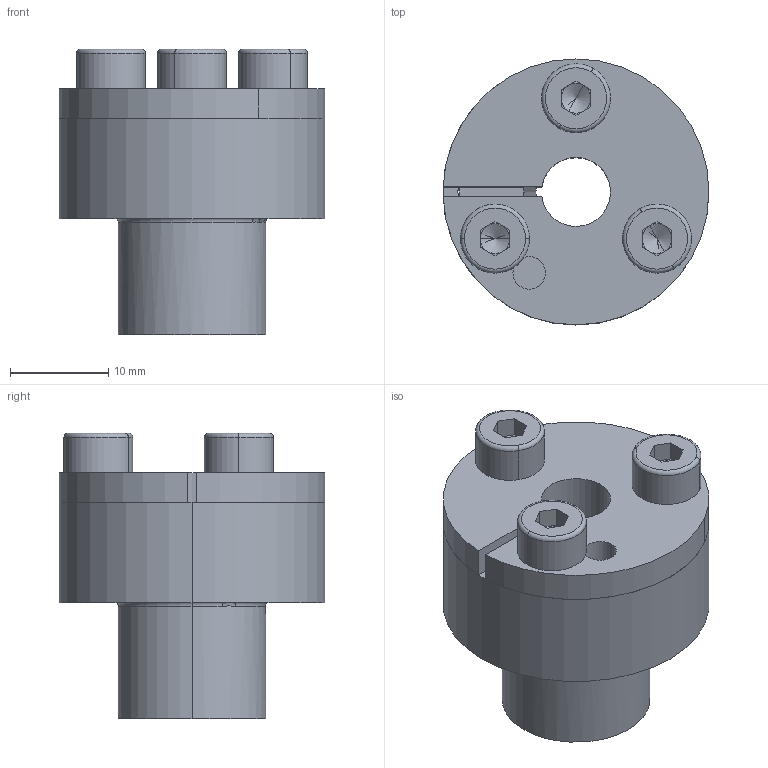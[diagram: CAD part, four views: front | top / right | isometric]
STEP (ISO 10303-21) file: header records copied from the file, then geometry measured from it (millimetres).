
FILE_DESCRIPTION (( 'STEP AP214' ), '1' );
FILE_NAME ('CONEX-B-07x15.step', '2013-04-04T12:40:53', ( 'Pc' ), ( '' ), 'SwSTEP 2.0', 'SolidWorks 2013', '' );
FILE_SCHEMA (( 'AUTOMOTIVE_DESIGN' ));
Length unit declared in the file: millimetre
Products named in the file (1): CONEX-B-07x15
Bounding box: 27 x 27 x 28.98 mm (x, y, z)
Volume: 7380.5 mm3; surface area: 7765.5 mm2
Topology: 6 solids, 6 shells, 140 faces, 333 edges, 202 vertices
Faces by surface type: plane 57, cylinder 42, torus 20, cone 18, bspline 3
Entity records: 5792 total; most frequent: CARTESIAN_POINT 828, DIRECTION 762, ORIENTED_EDGE 654, EDGE_CURVE 327, AXIS2_PLACEMENT_3D 308, VERTEX_POINT 202, CIRCLE 170, EDGE_LOOP 159
